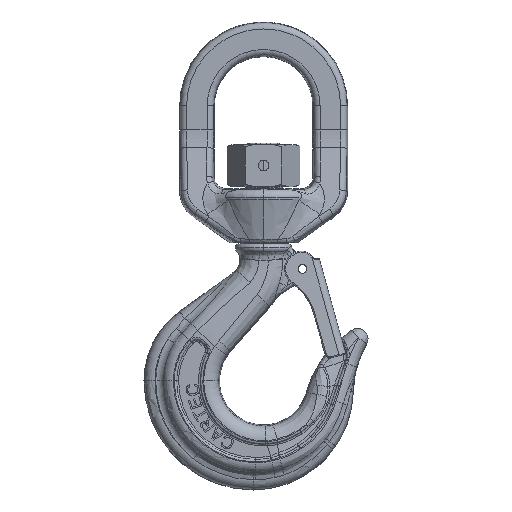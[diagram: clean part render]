
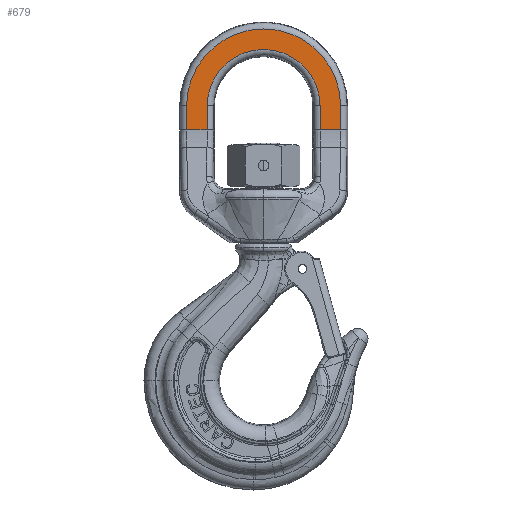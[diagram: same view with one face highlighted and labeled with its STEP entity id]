
A CAD part, top view. The second image highlights one B-rep face of the part: STEP entity #679.
In plain terms, the highlighted planar face has unit normal (0, 0, 1).
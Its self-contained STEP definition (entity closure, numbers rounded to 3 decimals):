
#679=ADVANCED_FACE('',(#2002),#2003,.T.);
#2002=FACE_OUTER_BOUND('',#23924,.T.);
#2003=PLANE('',#23925);
#23924=EDGE_LOOP('',(#29351,#29352,#29353,#29354,#29355,#29356,#29357,#29358));
#23925=AXIS2_PLACEMENT_3D('',#29359,#29360,#29361);
#29351=ORIENTED_EDGE('',*,*,#31650,.T.);
#29352=ORIENTED_EDGE('',*,*,#31657,.T.);
#29353=ORIENTED_EDGE('',*,*,#31658,.T.);
#29354=ORIENTED_EDGE('',*,*,#31659,.T.);
#29355=ORIENTED_EDGE('',*,*,#31654,.T.);
#29356=ORIENTED_EDGE('',*,*,#31660,.T.);
#29357=ORIENTED_EDGE('',*,*,#31661,.T.);
#29358=ORIENTED_EDGE('',*,*,#31662,.T.);
#29359=CARTESIAN_POINT('',(-50.0,170.999,6.5));
#29360=DIRECTION('',(0.0,0.,1.0));
#29361=DIRECTION('',(0.0,-1.0,0.));
#31650=EDGE_CURVE('',#34255,#34253,#34256,.F.);
#31654=EDGE_CURVE('',#34263,#34261,#34264,.T.);
#31657=EDGE_CURVE('',#34253,#34268,#34269,.T.);
#31658=EDGE_CURVE('',#34268,#34270,#34271,.T.);
#31659=EDGE_CURVE('',#34270,#34263,#34272,.F.);
#31660=EDGE_CURVE('',#34261,#34273,#34274,.F.);
#31661=EDGE_CURVE('',#34273,#34275,#34276,.F.);
#31662=EDGE_CURVE('',#34275,#34255,#34277,.T.);
#34253=VERTEX_POINT('',#50439);
#34255=VERTEX_POINT('',#50441);
#34256=LINE('',#50442,#50443);
#34261=VERTEX_POINT('',#50449);
#34263=VERTEX_POINT('',#50451);
#34264=LINE('',#50452,#50453);
#34268=VERTEX_POINT('',#50458);
#34269=LINE('',#50459,#50460);
#34270=VERTEX_POINT('',#50461);
#34271=CIRCLE('',#50462,36.682);
#34272=LINE('',#50463,#50464);
#34273=VERTEX_POINT('',#50465);
#34274=LINE('',#50466,#50467);
#34275=VERTEX_POINT('',#50468);
#34276=CIRCLE('',#50469,26.884);
#34277=LINE('',#50470,#50471);
#50439=CARTESIAN_POINT('',(36.682,119.562,6.5));
#50441=CARTESIAN_POINT('',(26.884,119.562,6.5));
#50442=CARTESIAN_POINT('',(36.682,119.562,6.5));
#50443=VECTOR('',#54652,9.798);
#50449=CARTESIAN_POINT('',(-26.884,119.562,6.5));
#50451=CARTESIAN_POINT('',(-36.682,119.562,6.5));
#50452=CARTESIAN_POINT('',(-36.682,119.562,6.5));
#50453=VECTOR('',#54660,9.798);
#50458=CARTESIAN_POINT('',(36.682,130.999,6.5));
#50459=CARTESIAN_POINT('',(36.682,119.562,6.5));
#50460=VECTOR('',#54665,11.437);
#50461=CARTESIAN_POINT('',(-36.682,130.999,6.5));
#50462=AXIS2_PLACEMENT_3D('',#54666,#54667,#54668);
#50463=CARTESIAN_POINT('',(-36.682,119.562,6.5));
#50464=VECTOR('',#54669,11.437);
#50465=CARTESIAN_POINT('',(-26.884,130.999,6.5));
#50466=CARTESIAN_POINT('',(-26.884,130.999,6.5));
#50467=VECTOR('',#54670,11.437);
#50468=CARTESIAN_POINT('',(26.884,130.999,6.5));
#50469=AXIS2_PLACEMENT_3D('',#54671,#54672,#54673);
#50470=CARTESIAN_POINT('',(26.884,130.999,6.5));
#50471=VECTOR('',#54674,11.437);
#54652=DIRECTION('',(-1.0,0.0,0.0));
#54660=DIRECTION('',(1.0,0.0,0.0));
#54665=DIRECTION('',(0.0,1.0,0.));
#54666=CARTESIAN_POINT('',(0.,130.999,6.5));
#54667=DIRECTION('',(0.0,0.,1.0));
#54668=DIRECTION('',(0.0,-1.0,0.));
#54669=DIRECTION('',(0.0,1.0,0.));
#54670=DIRECTION('',(0.0,-1.0,0.));
#54671=CARTESIAN_POINT('',(0.,130.999,6.5));
#54672=DIRECTION('',(0.0,0.,1.0));
#54673=DIRECTION('',(0.0,-1.0,0.));
#54674=DIRECTION('',(0.0,-1.0,0.));
